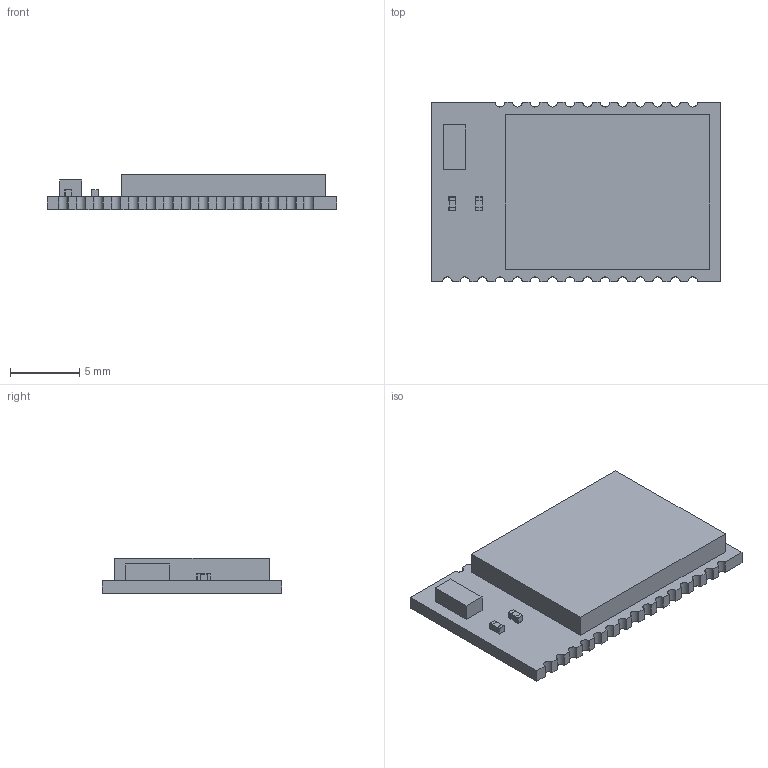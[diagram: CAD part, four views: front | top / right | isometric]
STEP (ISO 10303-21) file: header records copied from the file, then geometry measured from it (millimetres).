
FILE_DESCRIPTION(('Open CASCADE Model'),'2;1');
FILE_NAME('Open CASCADE Shape Model','2017-07-20T13:43:39',('Author'),( 'Open CASCADE'),'Open CASCADE STEP processor 6.8','Open CASCADE 6.8' ,'Unknown');
FILE_SCHEMA(('AUTOMOTIVE_DESIGN { 1 0 10303 214 1 1 1 1 }'));
Length unit declared in the file: millimetre
Products named in the file (11): PCB; Board; C5; cap_0402; Ant1; 782338560; Extruded; L2; Free-Models; 1920631336
Assembly tree (11 placements, depth 4):
  PCB
    Board
    C5
      cap_0402
    Ant1
      782338560
        Extruded
    L2
      cap_0402
    Free-Models
      1920631336
        Extruded
Bounding box: 21 x 13 x 2.54 mm (x, y, z)
Volume: 523.6 mm3; surface area: 1051 mm2
Topology: 5 solids, 5 shells, 172 faces, 442 edges, 268 vertices
Faces by surface type: cylinder 79, plane 77, sphere 16
Entity records: 4444 total; most frequent: DIRECTION 728, CARTESIAN_POINT 682, ORIENTED_EDGE 660, EDGE_CURVE 330, AXIS2_PLACEMENT_3D 258, VERTEX_POINT 212, LINE 212, VECTOR 212
